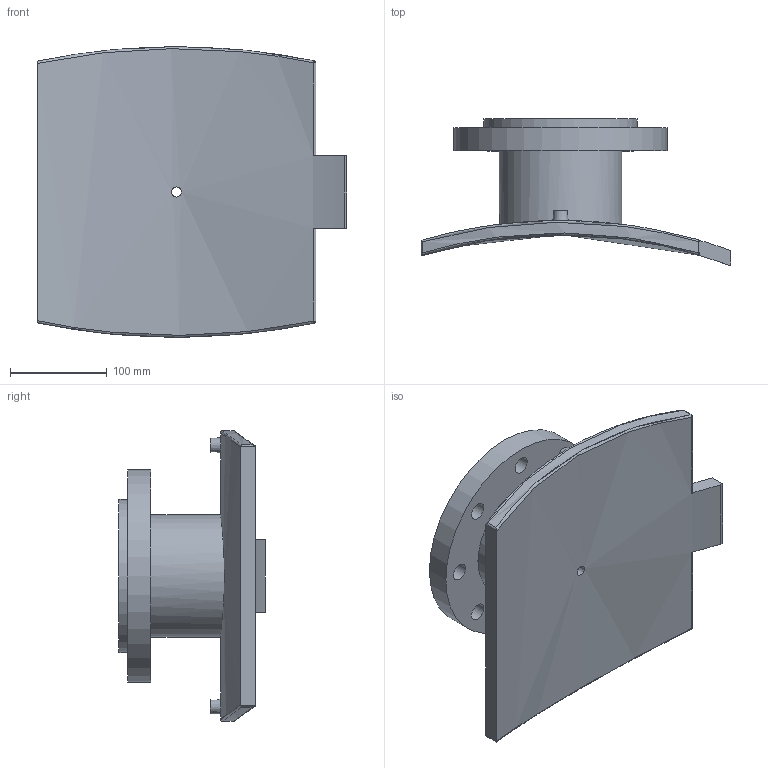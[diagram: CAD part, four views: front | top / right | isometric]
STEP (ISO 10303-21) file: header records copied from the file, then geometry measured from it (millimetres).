
FILE_DESCRIPTION(/* description */ ('PLASSON FLANGED BRANCH SADDLE 1000x100'),/* implementation_level */ '2;1');
FILE_NAME(/* name */ 'C:\Dropbox\KIMPROJECTS-Inventor 2019\99-16-3568-Processing\ElectroFusion Fittings\495904_495903\stp\4959031000100T.stp',/* time_stamp */ '2024-04-03T21:09:01+02:00',/* author */ ('KIM'),/* organization */ (''),/* preprocessor_version */ 'ST-DEVELOPER v17.2',/* originating_system */ 'Autodesk Inventor 2019',/* authorisation */ '');
FILE_SCHEMA (('AUTOMOTIVE_DESIGN { 1 0 10303 214 3 1 1 }'));
Length unit declared in the file: millimetre
Products named in the file (1): 4959031000100T
Bounding box: 320 x 151.01 x 299.98 mm (x, y, z)
Volume: 2426020.2 mm3; surface area: 342343.7 mm2
Topology: 1 solids, 1 shells, 58 faces, 151 edges, 118 vertices
Faces by surface type: cylinder 31, plane 17, sphere 4, bspline 4, cone 2
Full cylindrical faces by diameter (mm): 4 x2, 10 x2, 10.4 x1, 16 x1, 18 x8, 101 x1, 126.4 x1, 158 x1, 220 x1
Entity records: 2342 total; most frequent: CARTESIAN_POINT 846, DIRECTION 297, ORIENTED_EDGE 274, EDGE_CURVE 137, AXIS2_PLACEMENT_3D 125, VERTEX_POINT 92, EDGE_LOOP 87, CIRCLE 70
